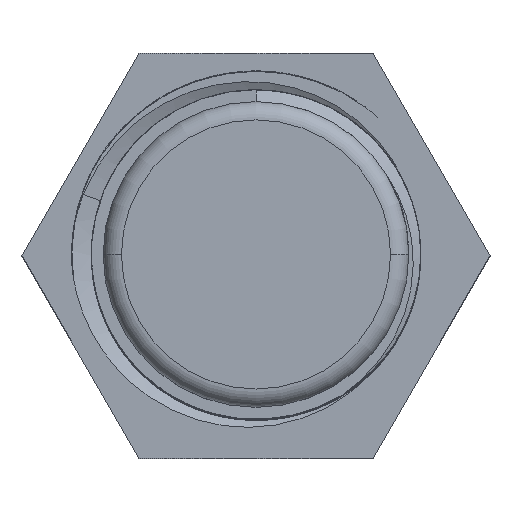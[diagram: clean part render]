
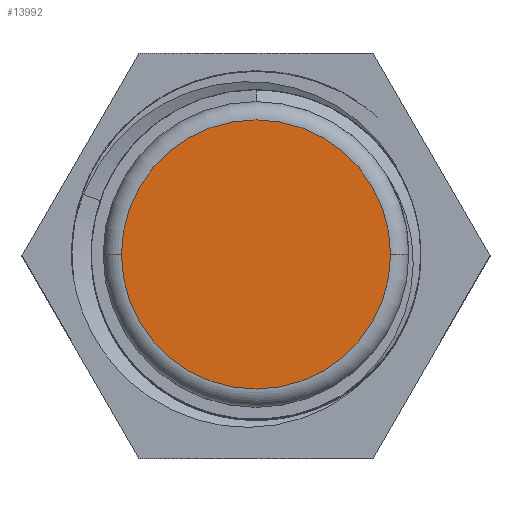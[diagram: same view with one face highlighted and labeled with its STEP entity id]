
A CAD part, top view. The second image highlights one B-rep face of the part: STEP entity #13992.
In plain terms, the highlighted planar face has unit normal (0, 0, 1).
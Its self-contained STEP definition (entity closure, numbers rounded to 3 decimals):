
#3087=CARTESIAN_POINT('',(0.,0.,57.));
#3088=DIRECTION('',(0.,0.,1.));
#3089=DIRECTION('',(1.,0.,0.));
#3090=AXIS2_PLACEMENT_3D('',#3087,#3088,#3089);
#3092=CARTESIAN_POINT('',(0.,0.,57.));
#3093=DIRECTION('',(0.,0.,1.));
#3094=DIRECTION('',(-1.,0.,0.));
#3095=AXIS2_PLACEMENT_3D('',#3092,#3093,#3094);
#12549=CARTESIAN_POINT('',(7.35,0.,57.));
#12550=CARTESIAN_POINT('',(-7.35,0.,57.));
#12551=VERTEX_POINT('',#12549);
#12552=VERTEX_POINT('',#12550);
#13982=CARTESIAN_POINT('',(0.,0.,57.));
#13983=DIRECTION('',(0.,0.,1.));
#13984=DIRECTION('',(1.,0.,0.));
#13985=AXIS2_PLACEMENT_3D('',#13982,#13983,#13984);
#13986=PLANE('',#13985);
#13987=ORIENTED_EDGE('',*,*,#13972,.F.);
#13989=ORIENTED_EDGE('',*,*,#13988,.F.);
#13990=EDGE_LOOP('',(#13987,#13989));
#13991=FACE_OUTER_BOUND('',#13990,.F.);
#13992=ADVANCED_FACE('',(#13991),#13986,.T.);
#3091=CIRCLE('',#3090,7.35);
#3096=CIRCLE('',#3095,7.35);
#13972=EDGE_CURVE('',#12551,#12552,#3091,.T.);
#13988=EDGE_CURVE('',#12552,#12551,#3096,.T.);
